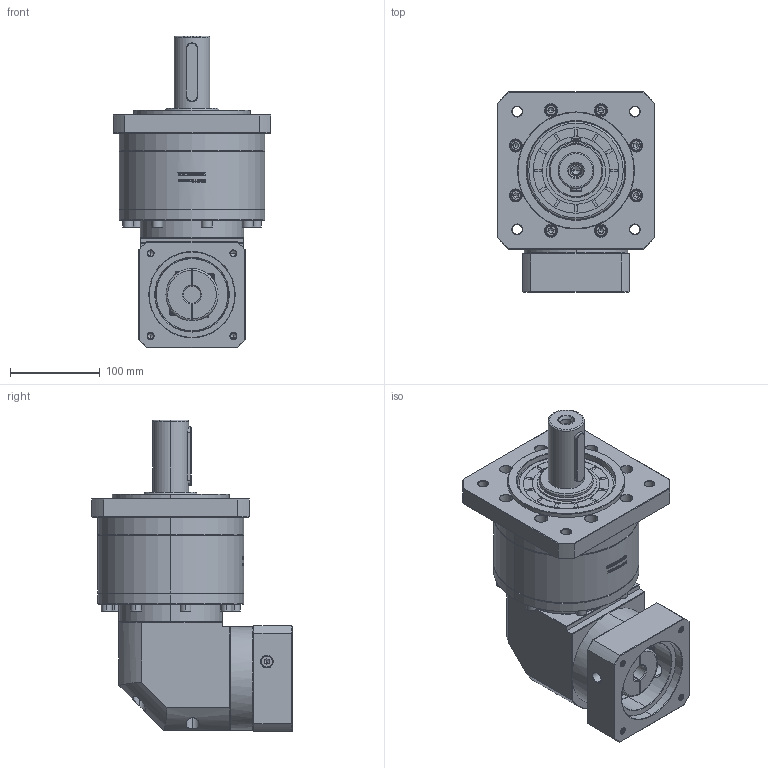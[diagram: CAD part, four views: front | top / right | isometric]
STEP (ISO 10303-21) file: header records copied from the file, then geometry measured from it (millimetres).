
FILE_DESCRIPTION (( 'STEP AP214' ), '1' );
FILE_NAME ('ZFR160A-D40-L2-19-95-130-M8.step', '2023-03-25T01:54:47', ( '' ), ( '' ), 'SwSTEP 2.0', 'SolidWorks 2016', '' );
FILE_SCHEMA (( 'AUTOMOTIVE_DESIGN' ));
Length unit declared in the file: millimetre
Products named in the file (1): ZFR160A-D40-L2-19-95-130-M8
Bounding box: 175 x 222.4 x 346.2 mm (x, y, z)
Volume: 5028400.9 mm3; surface area: 344266.2 mm2
Topology: 6 solids, 6 shells, 2782 faces, 7281 edges, 4672 vertices
Faces by surface type: plane 1373, bspline 497, cylinder 496, cone 370, torus 46
Entity records: 150284 total; most frequent: CARTESIAN_POINT 55566, ORIENTED_EDGE 14454, DIRECTION 11425, EDGE_CURVE 7227, VERTEX_POINT 4672, VECTOR 4501, LINE 4501, AXIS2_PLACEMENT_3D 3462
